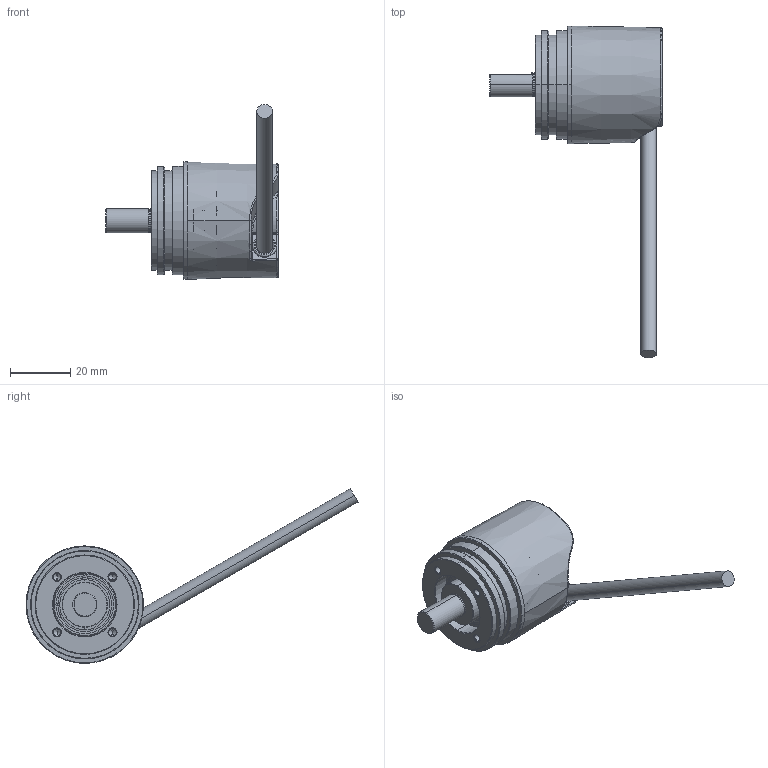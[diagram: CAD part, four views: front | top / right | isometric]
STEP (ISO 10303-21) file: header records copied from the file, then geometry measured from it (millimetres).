
FILE_DESCRIPTION (( 'STEP AP214' ), '1' );
FILE_NAME ('F3653.4321.XXXX.STEP', '2009-07-07T08:51:40', ( 'admin' ), ( 'Fritz Kübler GmbH' ), 'SwSTEP 2.0', 'SolidWorks 2009', '' );
FILE_SCHEMA (( 'AUTOMOTIVE_DESIGN' ));
Length unit declared in the file: millimetre
Products named in the file (1): F3653.4321.XXXX
Bounding box: 57.2 x 110.13 x 58.03 mm (x, y, z)
Volume: 25402.7 mm3; surface area: 23537.1 mm2
Topology: 21 solids, 21 shells, 796 faces, 1877 edges, 1128 vertices
Faces by surface type: bspline 203, cylinder 193, plane 142, cone 128, torus 98, sphere 32
Entity records: 41037 total; most frequent: CARTESIAN_POINT 15341, ORIENTED_EDGE 3602, DIRECTION 3371, EDGE_CURVE 1801, AXIS2_PLACEMENT_3D 1459, VERTEX_POINT 1092, CIRCLE 865, EDGE_LOOP 857
